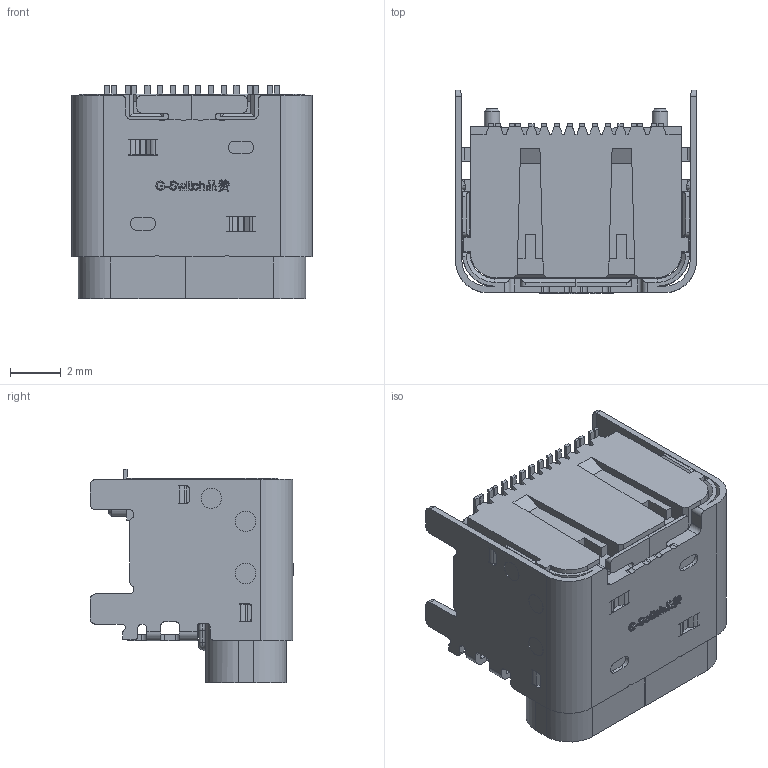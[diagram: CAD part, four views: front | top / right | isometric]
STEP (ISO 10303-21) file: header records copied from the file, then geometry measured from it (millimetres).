
FILE_DESCRIPTION (( 'STEP AP203' ), '1' );
FILE_NAME ('GT-USB-7016F.STEP', '2023-11-16T02:17:30', ( 'Microsoft' ), ( 'Microsoft' ), 'SwSTEP 2.0', 'SolidWorks 2023', '' );
FILE_SCHEMA (( 'CONFIG_CONTROL_DESIGN' ));
Length unit declared in the file: millimetre
Products named in the file (1): GT-USB-7016F
Bounding box: 9.47 x 8.01 x 8.4 mm (x, y, z)
Volume: 206.8 mm3; surface area: 864.6 mm2
Topology: 1 solids, 17 shells, 1502 faces, 4175 edges, 2730 vertices
Faces by surface type: plane 1020, cylinder 364, bspline 74, torus 30, cone 14
Entity records: 51757 total; most frequent: CARTESIAN_POINT 13513, ORIENTED_EDGE 8350, DIRECTION 7365, EDGE_CURVE 4175, VECTOR 3031, LINE 3031, VERTEX_POINT 2730, AXIS2_PLACEMENT_3D 2167
